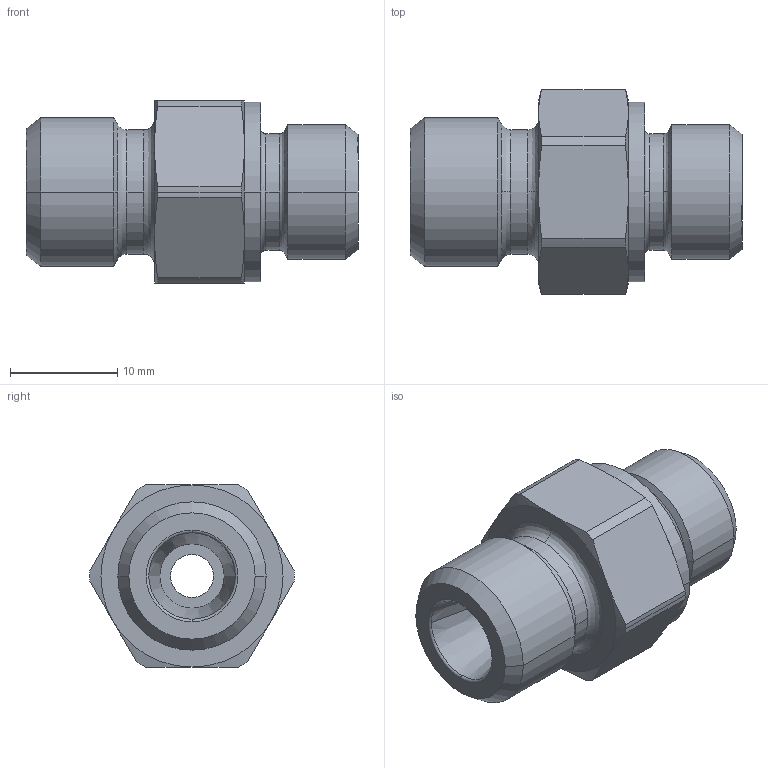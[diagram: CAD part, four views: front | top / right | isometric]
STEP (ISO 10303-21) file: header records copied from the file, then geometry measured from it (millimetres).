
FILE_DESCRIPTION((''),'2;1');
FILE_NAME('100914.stp','2007-10-30T15:28:45',(''),(''),'AutoCAD STEP 2000i','AutoCAD 2000i',', , ');
FILE_SCHEMA(('CONFIG_CONTROL_DESIGN'));
Length unit declared in the file: millimetre
Products named in the file (2): 100914.0; CHIAVE SMUSSATA#0
Assembly tree (1 placements, depth 2):
  100914.0
    CHIAVE SMUSSATA#0
Bounding box: 31 x 19.1 x 17 mm (x, y, z)
Volume: 4532.8 mm3; surface area: 2334.5 mm2
Topology: 1 solids, 1 shells, 68 faces, 165 edges, 103 vertices
Faces by surface type: cone 24, cylinder 22, plane 12, bspline 8, torus 2
Entity records: 2431 total; most frequent: CARTESIAN_POINT 738, DIRECTION 366, ORIENTED_EDGE 330, EDGE_CURVE 165, AXIS2_PLACEMENT_3D 163, VERTEX_POINT 103, CIRCLE 101, EDGE_LOOP 74
